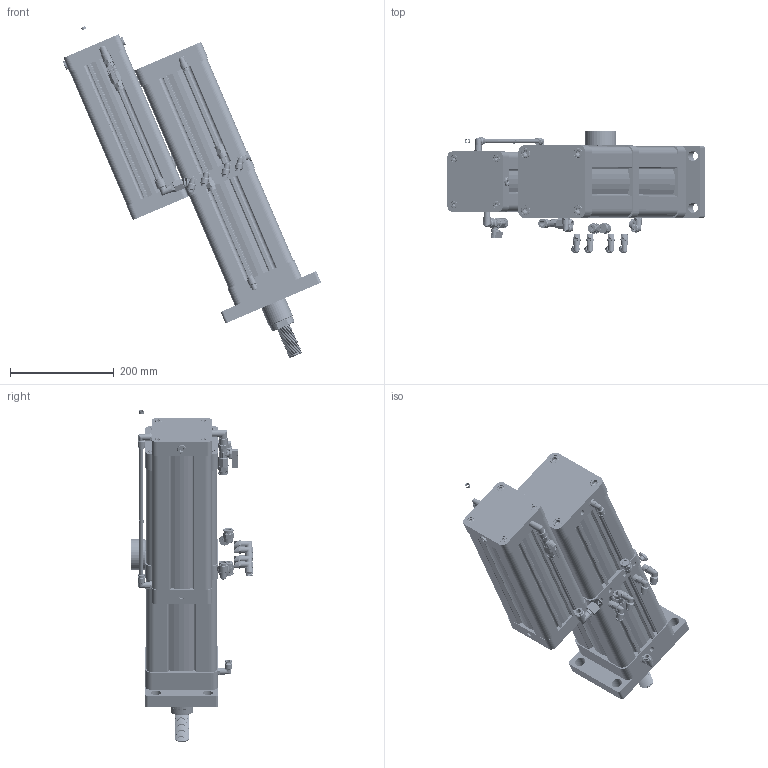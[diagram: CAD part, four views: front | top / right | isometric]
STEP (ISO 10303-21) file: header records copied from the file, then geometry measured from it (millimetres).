
FILE_DESCRIPTION(('CATIA V5 STEP Exchange'),'2;1');
FILE_NAME('D:\7-PHP\PHP CYLINDER\cad\master file\100\Stroke\PHP100.100.10\ASS\PHP-100-100-10.stp','2020-09-22T09:08:49+00:00',('none'),('none'),'CATIA Version 5-6 Release 2016','CATIA V5 STEP AP203','none');
FILE_SCHEMA(('CONFIG_CONTROL_DESIGN'));
Products named in the file (3): PHP-100-100-10; prssure; Valve-15-1-4.1
Assembly tree (57 placements, depth 3):
  PHP-100-100-10
    #57
    #689
    #1257
    #4454
    #5172
    #8369
    #9225
    #9816
    #13013
    prssure
      #13952
      #14264
      #14368
      #133374
      #250364
      #250387
      #250749
      #250853
      #251028
      #251398
      #252291
    #253197
    #253301
    #254179
    #255057
    #255935
    #256813
    #268677
    #269591
    #270505
    #271419
    #272333  x3
    #272850  x2
    #273032  x9
    #279880  x3
    #281361
    #282480
    #288279
    #295394
    Valve-15-1-4.1
      #296193
      #304935
      #305714
    #305763
Bounding box: 496.98 x 235.3 x 639.35 mm (x, y, z)
Volume: 6419469.9 mm3; surface area: 1456508.1 mm2
Topology: 112 solids, 112 shells, 10727 faces, 29992 edges, 19591 vertices
Faces by surface type: plane 7827, cylinder 1227, bspline 1172, cone 289, revolution 110, torus 82, sphere 14, extrusion 6
Entity records: 306168 total; most frequent: CARTESIAN_POINT 71838, ORIENTED_EDGE 52748, DIRECTION 40909, EDGE_CURVE 26374, VECTOR 22867, LINE 22865, VERTEX_POINT 17391, AXIS2_PLACEMENT_3D 9851
